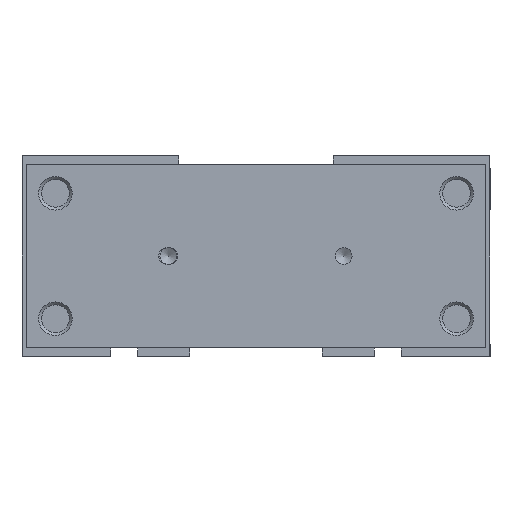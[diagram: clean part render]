
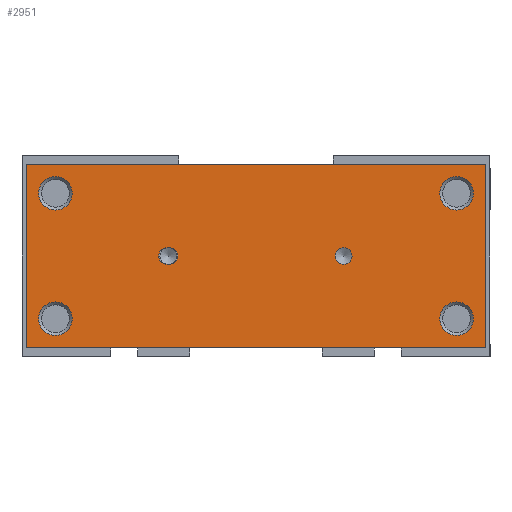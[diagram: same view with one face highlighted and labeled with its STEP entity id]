
A CAD part, left-side view. The second image highlights one B-rep face of the part: STEP entity #2951.
In plain terms, the highlighted planar face has unit normal (-1, 0, 0) as drawn and (0, 0, 1) by its records, which use the part's own axes.
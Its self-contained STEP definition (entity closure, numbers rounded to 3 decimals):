
#249=CIRCLE('',#3284,4.);
#250=CIRCLE('',#3285,4.);
#251=CIRCLE('',#3286,4.);
#252=CIRCLE('',#3287,4.);
#253=CIRCLE('',#3288,2.);
#254=CIRCLE('',#3289,2.);
#255=CIRCLE('',#3290,2.);
#870=ORIENTED_EDGE('',*,*,#1298,.F.);
#871=ORIENTED_EDGE('',*,*,#1299,.F.);
#872=ORIENTED_EDGE('',*,*,#1300,.F.);
#873=ORIENTED_EDGE('',*,*,#1301,.F.);
#874=ORIENTED_EDGE('',*,*,#1302,.F.);
#875=ORIENTED_EDGE('',*,*,#1303,.F.);
#876=ORIENTED_EDGE('',*,*,#1304,.F.);
#877=ORIENTED_EDGE('',*,*,#1305,.F.);
#878=ORIENTED_EDGE('',*,*,#1306,.F.);
#879=ORIENTED_EDGE('',*,*,#1279,.T.);
#880=ORIENTED_EDGE('',*,*,#1283,.T.);
#881=ORIENTED_EDGE('',*,*,#1286,.T.);
#882=ORIENTED_EDGE('',*,*,#1289,.T.);
#1279=EDGE_CURVE('',#1578,#1579,#1825,.T.);
#1283=EDGE_CURVE('',#1579,#1582,#1829,.T.);
#1286=EDGE_CURVE('',#1582,#1584,#1832,.T.);
#1289=EDGE_CURVE('',#1584,#1578,#1835,.T.);
#1298=EDGE_CURVE('',#1593,#1593,#249,.T.);
#1299=EDGE_CURVE('',#1594,#1594,#250,.T.);
#1300=EDGE_CURVE('',#1595,#1595,#251,.T.);
#1301=EDGE_CURVE('',#1596,#1596,#252,.T.);
#1302=EDGE_CURVE('',#1597,#1597,#253,.T.);
#1303=EDGE_CURVE('',#1598,#1599,#254,.T.);
#1304=EDGE_CURVE('',#1600,#1598,#1837,.T.);
#1305=EDGE_CURVE('',#1601,#1600,#255,.T.);
#1306=EDGE_CURVE('',#1599,#1601,#1838,.T.);
#1578=VERTEX_POINT('',#4887);
#1579=VERTEX_POINT('',#4888);
#1582=VERTEX_POINT('',#4896);
#1584=VERTEX_POINT('',#4902);
#1593=VERTEX_POINT('',#4926);
#1594=VERTEX_POINT('',#4928);
#1595=VERTEX_POINT('',#4930);
#1596=VERTEX_POINT('',#4932);
#1597=VERTEX_POINT('',#4934);
#1598=VERTEX_POINT('',#4936);
#1599=VERTEX_POINT('',#4937);
#1600=VERTEX_POINT('',#4939);
#1601=VERTEX_POINT('',#4941);
#1825=LINE('',#4886,#2049);
#1829=LINE('',#4895,#2053);
#1832=LINE('',#4901,#2056);
#1835=LINE('',#4907,#2059);
#1837=LINE('',#4938,#2061);
#1838=LINE('',#4942,#2062);
#2049=VECTOR('',#4025,1000.);
#2053=VECTOR('',#4031,1000.);
#2056=VECTOR('',#4036,1000.);
#2059=VECTOR('',#4041,1000.);
#2061=VECTOR('',#4073,1000.);
#2062=VECTOR('',#4076,1000.);
#2319=EDGE_LOOP('',(#870));
#2320=EDGE_LOOP('',(#871));
#2321=EDGE_LOOP('',(#872));
#2322=EDGE_LOOP('',(#873));
#2323=EDGE_LOOP('',(#874));
#2324=EDGE_LOOP('',(#875,#876,#877,#878));
#2325=EDGE_LOOP('',(#879,#880,#881,#882));
#2633=FACE_BOUND('',#2319,.T.);
#2634=FACE_BOUND('',#2320,.T.);
#2635=FACE_BOUND('',#2321,.T.);
#2636=FACE_BOUND('',#2322,.T.);
#2637=FACE_BOUND('',#2323,.T.);
#2638=FACE_BOUND('',#2324,.T.);
#2639=FACE_BOUND('',#2325,.T.);
#2788=PLANE('',#3283);
#2951=ADVANCED_FACE('',(#2633,#2634,#2635,#2636,#2637,#2638,#2639),#2788,
 .T.);
#3283=AXIS2_PLACEMENT_3D('',#4924,#4059,#4060);
#3284=AXIS2_PLACEMENT_3D('',#4925,#4061,#4062);
#3285=AXIS2_PLACEMENT_3D('',#4927,#4063,#4064);
#3286=AXIS2_PLACEMENT_3D('',#4929,#4065,#4066);
#3287=AXIS2_PLACEMENT_3D('',#4931,#4067,#4068);
#3288=AXIS2_PLACEMENT_3D('',#4933,#4069,#4070);
#3289=AXIS2_PLACEMENT_3D('',#4935,#4071,#4072);
#3290=AXIS2_PLACEMENT_3D('',#4940,#4074,#4075);
#4025=DIRECTION('',(0.,-1.,0.));
#4031=DIRECTION('',(1.,0.,0.));
#4036=DIRECTION('',(0.,1.,0.));
#4041=DIRECTION('',(-1.,0.,0.));
#4059=DIRECTION('',(0.,0.,1.));
#4060=DIRECTION('',(1.,0.,0.));
#4061=DIRECTION('',(0.,0.,1.));
#4062=DIRECTION('',(1.,0.,0.));
#4063=DIRECTION('',(0.,0.,1.));
#4064=DIRECTION('',(1.,0.,0.));
#4065=DIRECTION('',(0.,0.,1.));
#4066=DIRECTION('',(1.,0.,0.));
#4067=DIRECTION('',(0.,0.,1.));
#4068=DIRECTION('',(1.,0.,0.));
#4069=DIRECTION('',(0.,0.,1.));
#4070=DIRECTION('',(1.,0.,0.));
#4071=DIRECTION('',(0.,0.,1.));
#4072=DIRECTION('',(1.,0.,0.));
#4073=DIRECTION('',(0.,1.,0.));
#4074=DIRECTION('',(0.,0.,1.));
#4075=DIRECTION('',(1.,0.,0.));
#4076=DIRECTION('',(0.,-1.,0.));
#4886=CARTESIAN_POINT('',(-22.,55.,22.));
#4887=CARTESIAN_POINT('',(-22.,55.,22.));
#4888=CARTESIAN_POINT('',(-22.,-55.,22.));
#4895=CARTESIAN_POINT('',(-22.,-55.,22.));
#4896=CARTESIAN_POINT('',(22.,-55.,22.));
#4901=CARTESIAN_POINT('',(22.,-55.,22.));
#4902=CARTESIAN_POINT('',(22.,55.,22.));
#4907=CARTESIAN_POINT('',(22.,55.,22.));
#4924=CARTESIAN_POINT('',(0.,0.,22.));
#4925=CARTESIAN_POINT('',(-15.,48.,22.));
#4926=CARTESIAN_POINT('',(-11.,48.,22.));
#4927=CARTESIAN_POINT('',(15.,48.,22.));
#4928=CARTESIAN_POINT('',(19.,48.,22.));
#4929=CARTESIAN_POINT('',(-15.,-48.,22.));
#4930=CARTESIAN_POINT('',(-11.,-48.,22.));
#4931=CARTESIAN_POINT('',(15.,-48.,22.));
#4932=CARTESIAN_POINT('',(19.,-48.,22.));
#4933=CARTESIAN_POINT('',(0.,-21.,22.));
#4934=CARTESIAN_POINT('',(2.,-21.,22.));
#4935=CARTESIAN_POINT('',(0.,21.25,22.));
#4936=CARTESIAN_POINT('',(2.,21.25,22.));
#4937=CARTESIAN_POINT('',(-2.,21.25,22.));
#4938=CARTESIAN_POINT('',(2.,20.75,22.));
#4939=CARTESIAN_POINT('',(2.,20.75,22.));
#4940=CARTESIAN_POINT('',(0.,20.75,22.));
#4941=CARTESIAN_POINT('',(-2.,20.75,22.));
#4942=CARTESIAN_POINT('',(-2.,21.25,22.));
